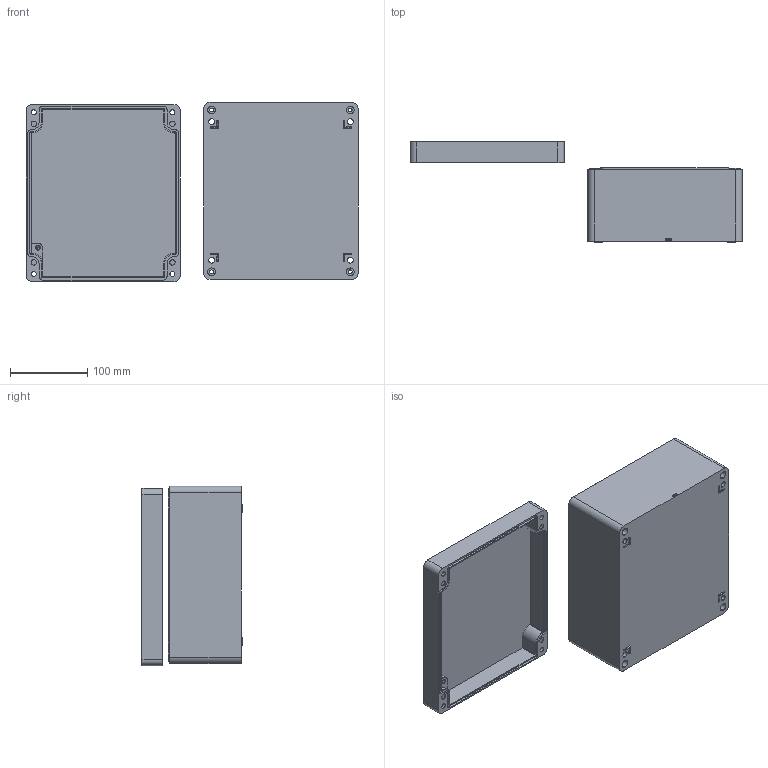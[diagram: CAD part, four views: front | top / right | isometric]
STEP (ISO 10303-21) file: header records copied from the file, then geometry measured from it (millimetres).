
FILE_DESCRIPTION (( 'STEP AP203' ), '1' );
FILE_NAME ('ZX-AL-202312_装配体.STEP', '2022-01-24T09:17:35', ( '微软用户' ), ( '微软中国' ), 'SwSTEP 2.0', 'SolidWorks 2020', '' );
FILE_SCHEMA (( 'CONFIG_CONTROL_DESIGN' ));
Length unit declared in the file: millimetre
Products named in the file (3): ZX-AL-202312_蚾饜极; ZX-AL-202312_狟; ZX-AL-202312_奻
Assembly tree (2 placements, depth 2):
  ZX-AL-202312_蚾饜极
    ZX-AL-202312_狟
    ZX-AL-202312_奻
Bounding box: 430.86 x 129.98 x 232.81 mm (x, y, z)
Volume: 961115.8 mm3; surface area: 409257.8 mm2
Topology: 2 solids, 2 shells, 689 faces, 1850 edges, 1197 vertices
Faces by surface type: plane 342, cylinder 172, bspline 123, cone 52
Entity records: 27219 total; most frequent: CARTESIAN_POINT 10370, ORIENTED_EDGE 3656, DIRECTION 3026, EDGE_CURVE 1828, VECTOR 1232, LINE 1232, VERTEX_POINT 1197, AXIS2_PLACEMENT_3D 897
